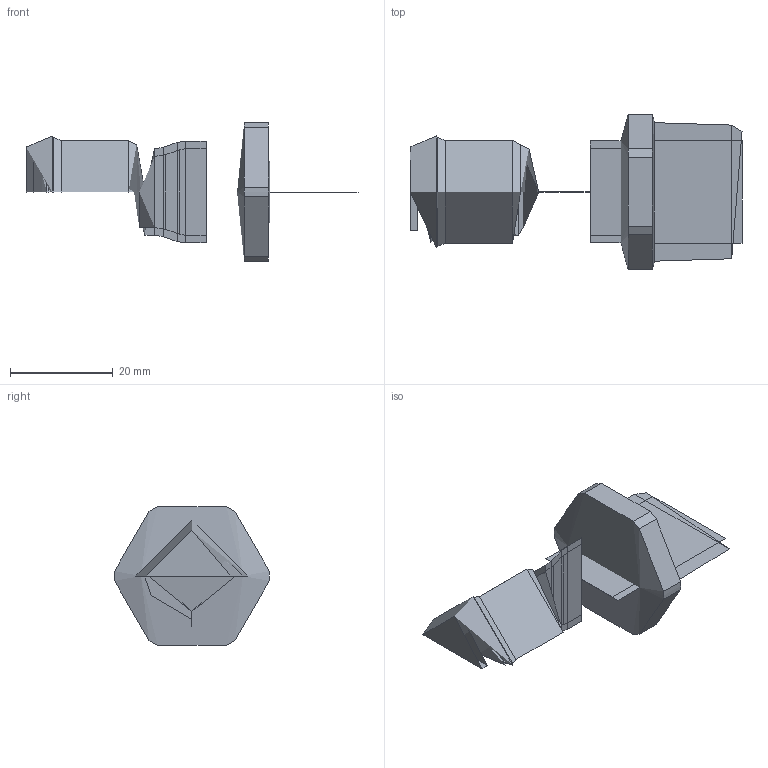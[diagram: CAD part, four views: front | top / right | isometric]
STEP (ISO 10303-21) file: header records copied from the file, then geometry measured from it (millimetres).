
FILE_DESCRIPTION(('FreeCAD Model'),'2;1');
FILE_NAME('Open CASCADE Shape Model','2025-10-20T15:01:22',('Author'),( ''),'Open CASCADE STEP processor 7.8','FreeCAD','Unknown');
FILE_SCHEMA(('AUTOMOTIVE_DESIGN { 1 0 10303 214 1 1 1 1 }'));
Length unit declared in the file: millimetre
Products named in the file (7): Unnamed156; COMPOUND; COMPOUND001; X-Achse; XY-Ebene; COMPOUND002; COMPOUND003
Assembly tree (18 placements, depth 3):
  Unnamed156
    COMPOUND
    COMPOUND001
      COMPOUND
    X-Achse  x6
    XY-Ebene  x6
    COMPOUND002
    COMPOUND003
      COMPOUND002
Bounding box: 64.5 x 30.11 x 27 mm (x, y, z)
Volume: 19257.3 mm3; surface area: 18397 mm2
Topology: 4 solids, 4 shells, 94 faces, 292 edges, 202 vertices
Faces by surface type: bspline 94
Entity records: 2419 total; most frequent: CARTESIAN_POINT 1459, ORIENTED_EDGE 286, EDGE_CURVE 143, VERTEX_POINT 101, FACE_BOUND 52, EDGE_LOOP 52, ADVANCED_FACE 47, DIRECTION 39
